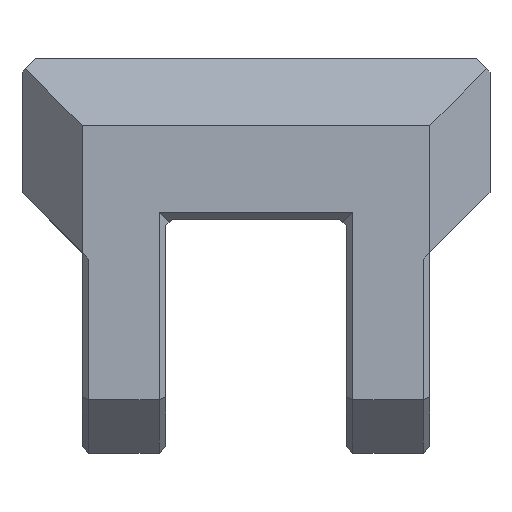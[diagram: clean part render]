
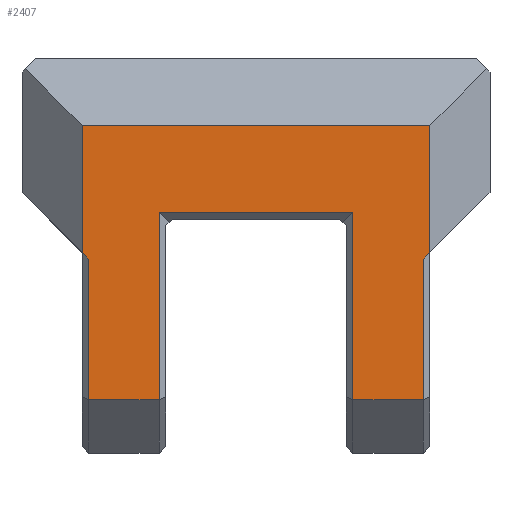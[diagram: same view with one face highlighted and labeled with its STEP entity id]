
A CAD part, top view. The second image highlights one B-rep face of the part: STEP entity #2407.
In plain terms, the highlighted planar face has unit normal (0, 0, 1).
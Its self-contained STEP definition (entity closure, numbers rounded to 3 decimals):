
#109=CARTESIAN_POINT('Vertex',(13.,5.,22.)) ;
#114=CARTESIAN_POINT('Line Origine',(13.,0.25,22.)) ;
#118=CARTESIAN_POINT('Vertex',(13.,-4.5,22.)) ;
#173=CARTESIAN_POINT('Vertex',(-13.,-4.5,22.)) ;
#176=CARTESIAN_POINT('Line Origine',(-13.,0.25,22.)) ;
#180=CARTESIAN_POINT('Vertex',(-13.,5.,22.)) ;
#201=CARTESIAN_POINT('Line Origine',(0.,5.,22.)) ;
#666=CARTESIAN_POINT('Line Origine',(12.75,-4.75,22.)) ;
#670=CARTESIAN_POINT('Vertex',(12.5,-5.,22.)) ;
#699=CARTESIAN_POINT('Line Origine',(12.5,-6.7,22.)) ;
#703=CARTESIAN_POINT('Vertex',(12.5,-15.5,22.)) ;
#824=CARTESIAN_POINT('Vertex',(-7.25,-15.5,22.)) ;
#965=CARTESIAN_POINT('Line Origine',(9.875,-15.5,22.)) ;
#969=CARTESIAN_POINT('Vertex',(7.25,-15.5,22.)) ;
#1067=CARTESIAN_POINT('Vertex',(7.25,-1.5,22.)) ;
#1083=CARTESIAN_POINT('Line Origine',(7.25,-6.95,22.)) ;
#1209=CARTESIAN_POINT('Vertex',(-7.25,-1.5,22.)) ;
#1214=CARTESIAN_POINT('Line Origine',(-7.25,-6.95,22.)) ;
#1250=CARTESIAN_POINT('Line Origine',(0.,-1.5,22.)) ;
#2301=CARTESIAN_POINT('Vertex',(-12.5,-5.,22.)) ;
#2304=CARTESIAN_POINT('Line Origine',(-12.75,-4.75,22.)) ;
#2364=CARTESIAN_POINT('Line Origine',(-9.875,-15.5,22.)) ;
#2368=CARTESIAN_POINT('Vertex',(-12.5,-15.5,22.)) ;
#2383=CARTESIAN_POINT('Axis2P3D Location',(0.,0.,22.)) ;
#2388=CARTESIAN_POINT('Line Origine',(-12.5,-10.25,22.)) ;
#115=DIRECTION('Vector Direction',(0.,1.,0.)) ;
#177=DIRECTION('Vector Direction',(0.,1.,0.)) ;
#202=DIRECTION('Vector Direction',(1.,0.,0.)) ;
#667=DIRECTION('Vector Direction',(-0.707,-0.707,0.)) ;
#700=DIRECTION('Vector Direction',(0.,-1.,0.)) ;
#966=DIRECTION('Vector Direction',(-1.,0.,0.)) ;
#1084=DIRECTION('Vector Direction',(0.,-1.,0.)) ;
#1215=DIRECTION('Vector Direction',(0.,-1.,0.)) ;
#1251=DIRECTION('Vector Direction',(-1.,0.,0.)) ;
#2305=DIRECTION('Vector Direction',(0.707,-0.707,0.)) ;
#2365=DIRECTION('Vector Direction',(-1.,0.,0.)) ;
#2384=DIRECTION('Axis2P3D Direction',(-0.,0.,1.)) ;
#2385=DIRECTION('Axis2P3D XDirection',(1.,-0.,0.)) ;
#2389=DIRECTION('Vector Direction',(0.,-1.,0.)) ;
#2386=AXIS2_PLACEMENT_3D('Plane Axis2P3D',#2383,#2384,#2385) ;
#2394=ORIENTED_EDGE('',*,*,#2370,.F.) ;
#2395=ORIENTED_EDGE('',*,*,#1218,.F.) ;
#2396=ORIENTED_EDGE('',*,*,#1254,.T.) ;
#2397=ORIENTED_EDGE('',*,*,#1087,.F.) ;
#2398=ORIENTED_EDGE('',*,*,#971,.F.) ;
#2399=ORIENTED_EDGE('',*,*,#705,.F.) ;
#2400=ORIENTED_EDGE('',*,*,#672,.F.) ;
#2401=ORIENTED_EDGE('',*,*,#120,.T.) ;
#2402=ORIENTED_EDGE('',*,*,#205,.F.) ;
#2403=ORIENTED_EDGE('',*,*,#182,.F.) ;
#2404=ORIENTED_EDGE('',*,*,#2308,.F.) ;
#2405=ORIENTED_EDGE('',*,*,#2392,.T.) ;
#116=VECTOR('Line Direction',#115,1.) ;
#178=VECTOR('Line Direction',#177,1.) ;
#203=VECTOR('Line Direction',#202,1.) ;
#668=VECTOR('Line Direction',#667,1.) ;
#701=VECTOR('Line Direction',#700,1.) ;
#967=VECTOR('Line Direction',#966,1.) ;
#1085=VECTOR('Line Direction',#1084,1.) ;
#1216=VECTOR('Line Direction',#1215,1.) ;
#1252=VECTOR('Line Direction',#1251,1.) ;
#2306=VECTOR('Line Direction',#2305,1.) ;
#2366=VECTOR('Line Direction',#2365,1.) ;
#2390=VECTOR('Line Direction',#2389,1.) ;
#2407=ADVANCED_FACE('PartBody',(#2406),#2387,.T.) ;
#120=EDGE_CURVE('',#119,#110,#117,.T.) ;
#182=EDGE_CURVE('',#174,#181,#179,.T.) ;
#205=EDGE_CURVE('',#181,#110,#204,.T.) ;
#672=EDGE_CURVE('',#119,#671,#669,.T.) ;
#705=EDGE_CURVE('',#671,#704,#702,.T.) ;
#971=EDGE_CURVE('',#704,#970,#968,.T.) ;
#1087=EDGE_CURVE('',#970,#1068,#1086,.F.) ;
#1218=EDGE_CURVE('',#1210,#825,#1217,.T.) ;
#1254=EDGE_CURVE('',#1210,#1068,#1253,.F.) ;
#2308=EDGE_CURVE('',#2302,#174,#2307,.F.) ;
#2370=EDGE_CURVE('',#825,#2369,#2367,.T.) ;
#2392=EDGE_CURVE('',#2302,#2369,#2391,.T.) ;
#2393=EDGE_LOOP('',(#2394,#2395,#2396,#2397,#2398,#2399,#2400,#2401,#2402,#2403,#2404,#2405)) ;
#2406=FACE_OUTER_BOUND('',#2393,.T.) ;
#117=LINE('Line',#114,#116) ;
#179=LINE('Line',#176,#178) ;
#204=LINE('Line',#201,#203) ;
#669=LINE('Line',#666,#668) ;
#702=LINE('Line',#699,#701) ;
#968=LINE('Line',#965,#967) ;
#1086=LINE('Line',#1083,#1085) ;
#1217=LINE('Line',#1214,#1216) ;
#1253=LINE('Line',#1250,#1252) ;
#2307=LINE('Line',#2304,#2306) ;
#2367=LINE('Line',#2364,#2366) ;
#2391=LINE('Line',#2388,#2390) ;
#2387=PLANE('Plane',#2386) ;
#110=VERTEX_POINT('',#109) ;
#119=VERTEX_POINT('',#118) ;
#174=VERTEX_POINT('',#173) ;
#181=VERTEX_POINT('',#180) ;
#671=VERTEX_POINT('',#670) ;
#704=VERTEX_POINT('',#703) ;
#825=VERTEX_POINT('',#824) ;
#970=VERTEX_POINT('',#969) ;
#1068=VERTEX_POINT('',#1067) ;
#1210=VERTEX_POINT('',#1209) ;
#2302=VERTEX_POINT('',#2301) ;
#2369=VERTEX_POINT('',#2368) ;
